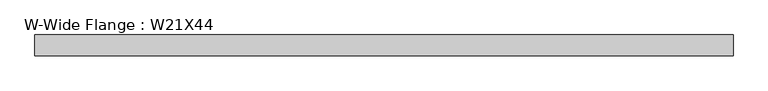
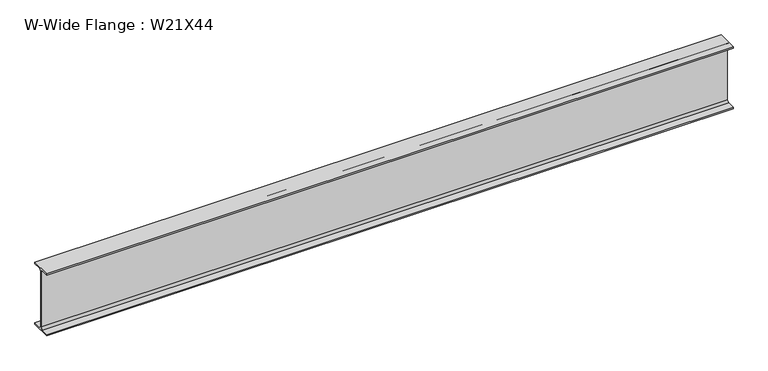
"""IFC4 building model written with IfcOpenShell, lengths in millimetres: beam geometry, W-Wide Flange : W21X44."""

from ifc_helpers import new_model, si_unit, point, frame, frame_2d, origin, place, context, project, spatial, polyline, circle_curve, trimmed, segment, composite_curve, outline, extrude, source, transform, mapped, element, save


def w_wide_flange_w21x44_175405ae(model_context):
    return source(origin(), model_context, "Body", "SweptSolid", [
        extrude(outline(composite_curve([segment(polyline([(82.55, -251.46), (82.55, -262.89), (-82.55, -262.89), (-82.55, -251.46), (-21.59, -251.46)]), True, "CONTINUOUS"), segment(trimmed(circle_curve(frame_2d((-21.59, -234.315)), 17.145), [point((-21.59, -251.46))], [point((-4.445, -234.315))], True, "CARTESIAN"), True, "CONTINUOUS"), segment(polyline([(-4.445, -234.315), (-4.445, 234.315)]), True, "CONTINUOUS"), segment(trimmed(circle_curve(frame_2d((-21.59, 234.315)), 17.145), [point((-4.445, 234.315))], [point((-21.59, 251.46))], True, "CARTESIAN"), True, "CONTINUOUS"), segment(polyline([(-21.59, 251.46), (-82.55, 251.46), (-82.55, 262.89), (82.55, 262.89), (82.55, 251.46), (21.59, 251.46)]), True, "CONTINUOUS"), segment(trimmed(circle_curve(frame_2d((21.59, 234.315)), 17.145), [point((21.59, 251.46))], [point((4.445, 234.315))], True, "CARTESIAN"), True, "CONTINUOUS"), segment(polyline([(4.445, 234.315), (4.445, -234.315)]), True, "CONTINUOUS"), segment(trimmed(circle_curve(frame_2d((21.59, -234.315)), 17.145), [point((4.445, -234.315))], [point((21.59, -251.46))], True, "CARTESIAN"), True, "CONTINUOUS"), segment(polyline([(21.59, -251.46), (82.55, -251.46)]), True, "CONTINUOUS")], self_intersect=False)), frame((-2763.8375, 0.0, 0.0), z_axis=(1.0, 0.0, 0.0), x_axis=(0.0, 1.0, 0.0)), (0.0, 0.0, 1.0), 5508.5753906),
    ])


if __name__ == "__main__":
    model = new_model("IFC4")
    model_context = context("Model", 3, world=origin())
    ifc_project = project(units=[si_unit("LENGTHUNIT", "METRE", prefix="MILLI")], contexts=[model_context])
    site = spatial("IfcSite", under=ifc_project)
    building = spatial("IfcBuilding", under=site)
    placement = place(None, origin())
    w_wide_flange_w21x44_shape = w_wide_flange_w21x44_175405ae(model_context)
    element("IfcBeam", 1, ObjectType="W-Wide Flange : W21X44", at=placement, inside=building, context=model_context, shape_type="MappedRepresentation", body=[
        mapped(w_wide_flange_w21x44_shape, transform((0.0, 0.0, 0.0), x_axis=(1.0, 0.0, 0.0), y_axis=(0.0, 1.0, 0.0), z_axis=(0.0, 0.0, 1.0))),
    ])
    save(model, "model.ifc")
